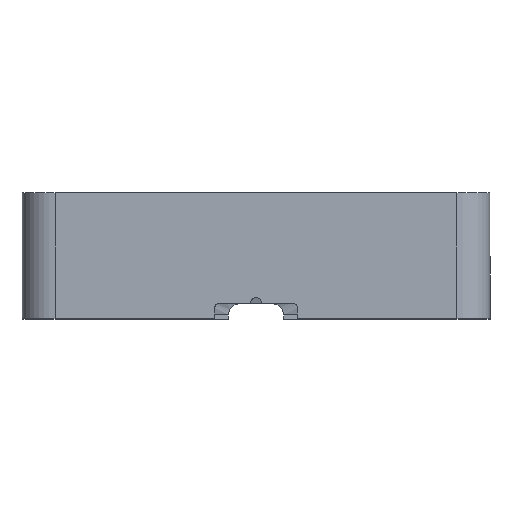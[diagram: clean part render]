
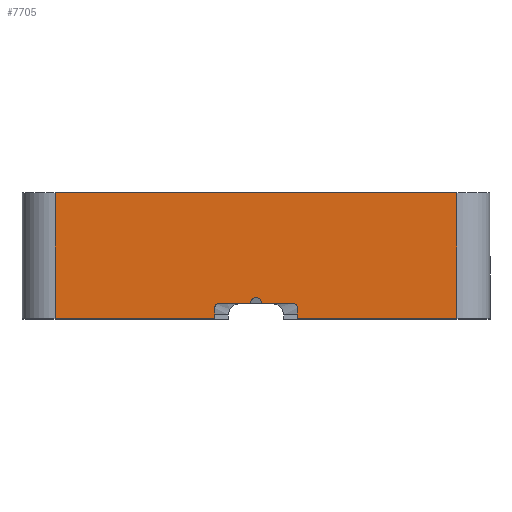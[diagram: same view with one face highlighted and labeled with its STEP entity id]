
A CAD part, top view. The second image highlights one B-rep face of the part: STEP entity #7705.
In plain terms, the highlighted planar face has unit normal (0, 0, 1).
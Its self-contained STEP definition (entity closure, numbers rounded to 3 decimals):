
#36=PLANE('',#8170);
#443=FACE_OUTER_BOUND('',#865,.T.);
#865=EDGE_LOOP('',(#6747,#6748,#6749,#6750,#6751,#6752,#6753,#6754,#6755,
#6756,#6757,#6758));
#966=CIRCLE('',#8169,1.);
#967=CIRCLE('',#8171,1.);
#968=CIRCLE('',#8172,1.);
#2040=LINE('',#21362,#2457);
#2075=LINE('',#31628,#2492);
#2089=LINE('',#31661,#2506);
#2098=LINE('',#31845,#2515);
#2099=LINE('',#31848,#2516);
#2100=LINE('',#31850,#2517);
#2101=LINE('',#31851,#2518);
#2102=LINE('',#31853,#2519);
#2103=LINE('',#31856,#2520);
#2457=VECTOR('',#9238,10.);
#2492=VECTOR('',#9349,10.);
#2506=VECTOR('',#9381,10.);
#2515=VECTOR('',#9410,10.);
#2516=VECTOR('',#9413,10.);
#2517=VECTOR('',#9414,10.);
#2518=VECTOR('',#9415,10.);
#2519=VECTOR('',#9416,10.);
#2520=VECTOR('',#9419,10.);
#3229=VERTEX_POINT('',#21359);
#3230=VERTEX_POINT('',#21361);
#3294=VERTEX_POINT('',#31626);
#3303=VERTEX_POINT('',#31658);
#3304=VERTEX_POINT('',#31660);
#3320=VERTEX_POINT('',#31838);
#3321=VERTEX_POINT('',#31840);
#3322=VERTEX_POINT('',#31844);
#3323=VERTEX_POINT('',#31847);
#3324=VERTEX_POINT('',#31849);
#3325=VERTEX_POINT('',#31852);
#3326=VERTEX_POINT('',#31854);
#4335=EDGE_CURVE('',#3229,#3230,#2040,.T.);
#4448=EDGE_CURVE('',#3294,#3229,#2075,.T.);
#4464=EDGE_CURVE('',#3303,#3304,#2089,.T.);
#4487=EDGE_CURVE('',#3321,#3320,#966,.T.);
#4489=EDGE_CURVE('',#3322,#3320,#2098,.T.);
#4490=EDGE_CURVE('',#3230,#3322,#967,.T.);
#4491=EDGE_CURVE('',#3294,#3323,#2099,.T.);
#4492=EDGE_CURVE('',#3324,#3323,#2100,.T.);
#4493=EDGE_CURVE('',#3304,#3324,#2101,.T.);
#4494=EDGE_CURVE('',#3303,#3325,#2102,.T.);
#4495=EDGE_CURVE('',#3326,#3325,#968,.T.);
#4496=EDGE_CURVE('',#3321,#3326,#2103,.T.);
#6747=ORIENTED_EDGE('',*,*,#4487,.T.);
#6748=ORIENTED_EDGE('',*,*,#4489,.F.);
#6749=ORIENTED_EDGE('',*,*,#4490,.F.);
#6750=ORIENTED_EDGE('',*,*,#4335,.F.);
#6751=ORIENTED_EDGE('',*,*,#4448,.F.);
#6752=ORIENTED_EDGE('',*,*,#4491,.T.);
#6753=ORIENTED_EDGE('',*,*,#4492,.F.);
#6754=ORIENTED_EDGE('',*,*,#4493,.F.);
#6755=ORIENTED_EDGE('',*,*,#4464,.F.);
#6756=ORIENTED_EDGE('',*,*,#4494,.T.);
#6757=ORIENTED_EDGE('',*,*,#4495,.F.);
#6758=ORIENTED_EDGE('',*,*,#4496,.F.);
#7705=ADVANCED_FACE('',(#443),#36,.T.);
#8169=AXIS2_PLACEMENT_3D('',#31841,#9405,#9406);
#8170=AXIS2_PLACEMENT_3D('',#31843,#9408,#9409);
#8171=AXIS2_PLACEMENT_3D('',#31846,#9411,#9412);
#8172=AXIS2_PLACEMENT_3D('',#31855,#9417,#9418);
#9238=DIRECTION('',(0.,1.,0.));
#9349=DIRECTION('',(-1.,0.,0.));
#9381=DIRECTION('',(-1.,0.,0.));
#9405=DIRECTION('center_axis',(0.,0.,-1.));
#9406=DIRECTION('ref_axis',(-1.,0.,0.));
#9408=DIRECTION('center_axis',(0.,0.,1.));
#9409=DIRECTION('ref_axis',(1.,0.,0.));
#9410=DIRECTION('',(-1.,0.,0.));
#9411=DIRECTION('center_axis',(0.,0.,
1.));
#9412=DIRECTION('ref_axis',(1.,0.,0.));
#9413=DIRECTION('',(0.,1.,0.));
#9414=DIRECTION('',(1.,0.,0.));
#9415=DIRECTION('',(0.,1.,0.));
#9416=DIRECTION('',(0.,1.,0.));
#9417=DIRECTION('center_axis',(0.,0.,
1.));
#9418=DIRECTION('ref_axis',(0.,1.,0.));
#9419=DIRECTION('',(-1.,0.,0.));
#21359=CARTESIAN_POINT('',(-35.653,4.614,68.185));
#21361=CARTESIAN_POINT('',(-35.653,6.414,68.185));
#21362=CARTESIAN_POINT('',(-35.653,5.414,68.185));
#31626=CARTESIAN_POINT('',(-6.753,4.614,68.185));
#31628=CARTESIAN_POINT('',(-6.753,4.614,68.185));
#31658=CARTESIAN_POINT('',(-50.653,4.614,68.185));
#31660=CARTESIAN_POINT('',(-79.553,4.614,68.185));
#31661=CARTESIAN_POINT('',(-50.653,4.614,68.185));
#31838=CARTESIAN_POINT('',(-42.153,7.414,68.185));
#31840=CARTESIAN_POINT('',(-44.153,7.414,68.185));
#31841=CARTESIAN_POINT('Origin',(-43.153,7.414,68.185));
#31843=CARTESIAN_POINT('Origin',(-35.653,5.414,68.185));
#31844=CARTESIAN_POINT('',(-36.653,7.414,68.185));
#31845=CARTESIAN_POINT('',(-36.653,7.414,68.185));
#31846=CARTESIAN_POINT('Origin',(-36.653,6.414,68.185));
#31847=CARTESIAN_POINT('',(-6.753,27.414,68.185));
#31848=CARTESIAN_POINT('',(-6.753,5.414,68.185));
#31849=CARTESIAN_POINT('',(-79.553,27.414,68.185));
#31850=CARTESIAN_POINT('',(-79.553,27.414,68.185));
#31851=CARTESIAN_POINT('',(-79.553,5.414,68.185));
#31852=CARTESIAN_POINT('',(-50.653,6.414,68.185));
#31853=CARTESIAN_POINT('',(-50.653,5.414,68.185));
#31854=CARTESIAN_POINT('',(-49.653,7.414,68.185));
#31855=CARTESIAN_POINT('Origin',(-49.653,6.414,68.185));
#31856=CARTESIAN_POINT('',(-36.653,7.414,68.185));
